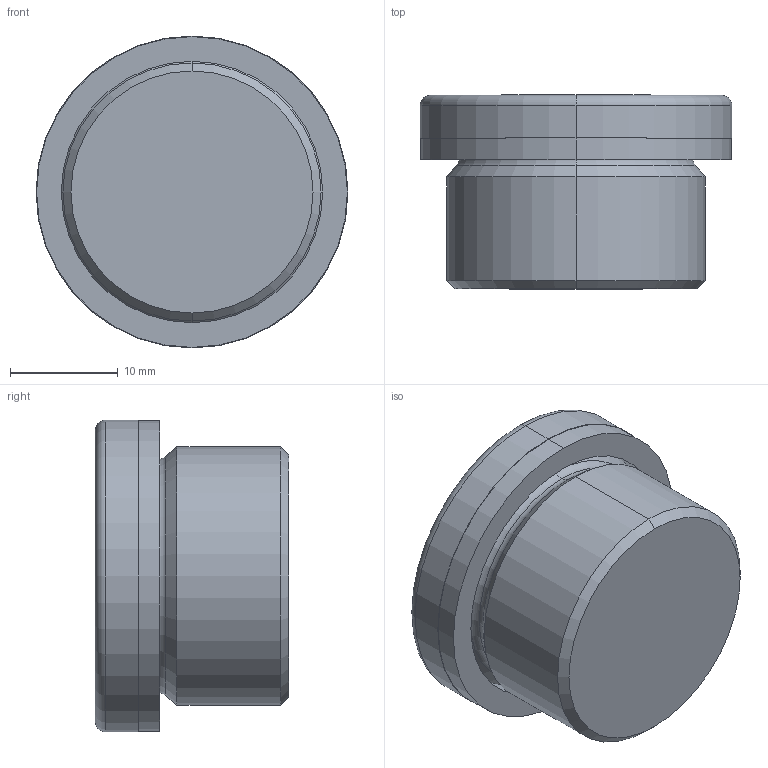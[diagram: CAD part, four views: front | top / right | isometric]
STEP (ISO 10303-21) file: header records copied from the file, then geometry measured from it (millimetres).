
FILE_DESCRIPTION (( 'STEP AP214' ), '1' );
FILE_NAME ('908-A4-M24x1,5-AA.step', '2024-12-19T09:18:42', ( '' ), ( '' ), 'SwSTEP 2.0', 'SolidWorks 2022', '' );
FILE_SCHEMA (( 'AUTOMOTIVE_DESIGN' ));
Length unit declared in the file: millimetre
Products named in the file (1): 908-A4-M24x1,5-AA
Bounding box: 29 x 18 x 29 mm (x, y, z)
Volume: 8206.4 mm3; surface area: 3349.9 mm2
Topology: 1 solids, 1 shells, 31 faces, 64 edges, 38 vertices
Faces by surface type: plane 11, cylinder 8, torus 6, cone 6
Entity records: 929 total; most frequent: DIRECTION 160, CARTESIAN_POINT 134, ORIENTED_EDGE 128, AXIS2_PLACEMENT_3D 64, EDGE_CURVE 64, VERTEX_POINT 38, EDGE_LOOP 34, VECTOR 32
